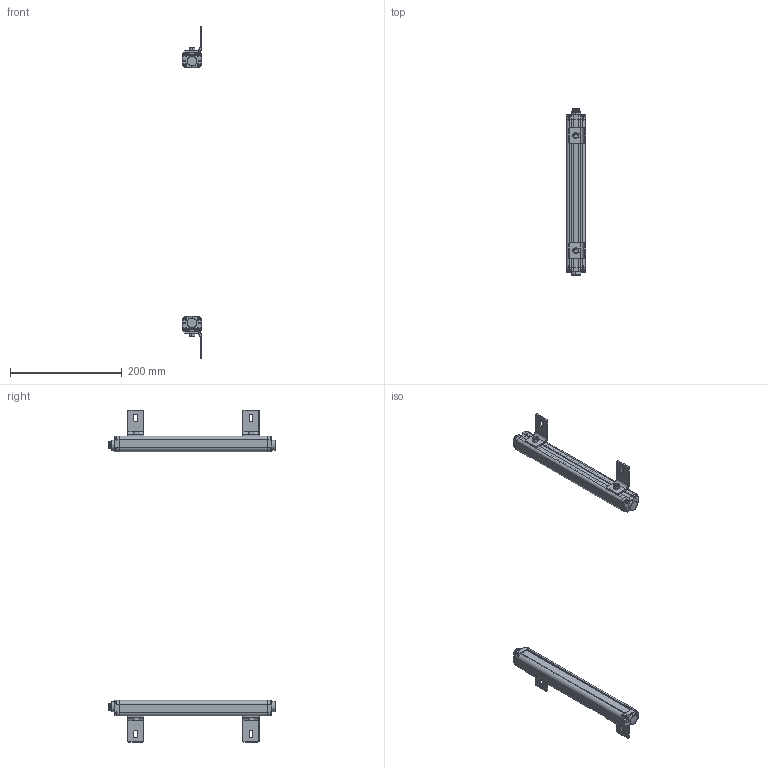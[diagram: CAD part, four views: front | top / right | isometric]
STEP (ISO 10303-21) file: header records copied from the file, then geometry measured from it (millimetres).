
FILE_DESCRIPTION (( 'STEP AP214' ), '1' );
FILE_NAME ('elg2410.STEP', '2018-03-08T10:32:38', ( '' ), ( '' ), 'SwSTEP 2.0', 'SolidWorks 2017', '' );
FILE_SCHEMA (( 'AUTOMOTIVE_DESIGN' ));
Length unit declared in the file: millimetre
Products named in the file (11): hkct1-2410; elg2410; elgdg03-2410; glgdg-2410; dlx-2410; elgw-2410; hk-2410; lx-2410; lgp-2410; bz1-2410; czzj-2410
Assembly tree (40 placements, depth 2):
  elg2410
    elgw-2410  x2
    bz1-2410  x2
    lgp-2410  x2
    glgdg-2410  x2
    elgdg03-2410  x2
    hkct1-2410  x2
    lx-2410  x16
    hk-2410  x4
    czzj-2410  x4
    dlx-2410  x4
Bounding box: 34.7 x 297.6 x 594 mm (x, y, z)
Volume: 237436.3 mm3; surface area: 239128 mm2
Topology: 40 solids, 40 shells, 2192 faces, 5736 edges, 3636 vertices
Faces by surface type: cylinder 1048, plane 688, bspline 456
Entity records: 143745 total; most frequent: CARTESIAN_POINT 128484, ORIENTED_EDGE 3220, DIRECTION 2882, EDGE_CURVE 1610, AXIS2_PLACEMENT_3D 1053, VERTEX_POINT 1034, VECTOR 776, LINE 776
